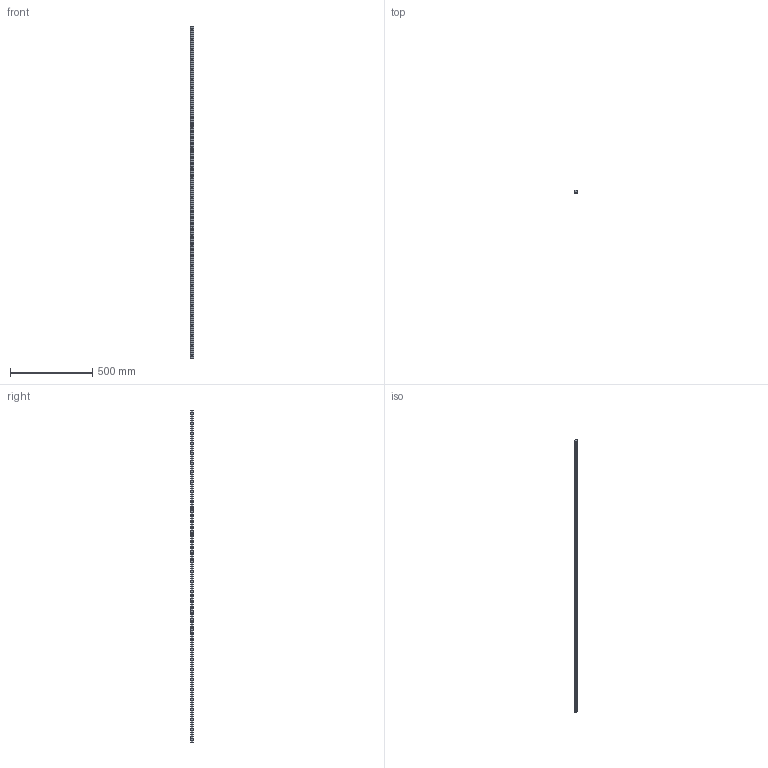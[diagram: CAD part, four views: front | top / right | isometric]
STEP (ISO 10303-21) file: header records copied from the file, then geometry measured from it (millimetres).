
FILE_DESCRIPTION (( 'STEP AP203' ), '1' );
FILE_NAME ('L1016.BL20-2020.step', '2019-06-12T11:51:27', ( '' ), ( '' ), 'SwSTEP 2.0', 'SolidWorks 2017', '' );
FILE_SCHEMA (( 'CONFIG_CONTROL_DESIGN' ));
Length unit declared in the file: millimetre
Products named in the file (1): L1016.BL20-2020
Bounding box: 20 x 16.3 x 2020 mm (x, y, z)
Volume: 561420.7 mm3; surface area: 162697.1 mm2
Topology: 1 solids, 1 shells, 196 faces, 480 edges, 320 vertices
Faces by surface type: cylinder 140, plane 56
Entity records: 6137 total; most frequent: DIRECTION 1154, CARTESIAN_POINT 997, ORIENTED_EDGE 960, EDGE_CURVE 480, AXIS2_PLACEMENT_3D 477, VERTEX_POINT 320, EDGE_LOOP 298, CIRCLE 280
